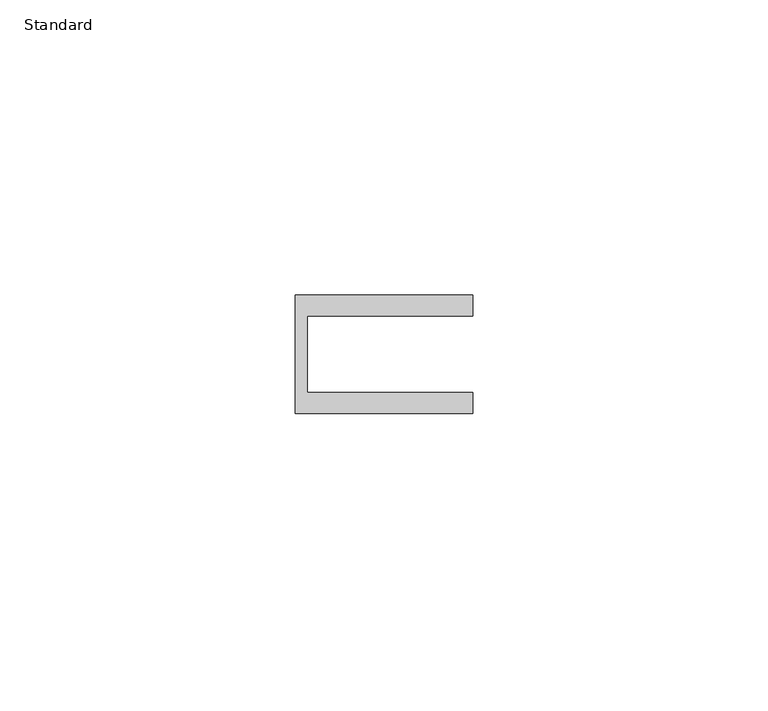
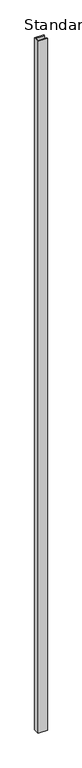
"""IFC4 building model written with IfcOpenShell, lengths in millimetres: furniture geometry, X_Partition-Channel-Duracube-End : Standard."""

from ifc_helpers import new_model, si_unit, origin, origin_with_axes, place, context, project, spatial, polyline, outline, extrude, source, transform, mapped, element, save


def standard_ce56a993(model_context):
    return source(origin(), model_context, "Body", "SweptSolid", [
        extrude(outline(polyline([(31.7003264, 0.0), (59.7003264, 0.0), (59.7003264, -3.5), (29.7003264, -3.5), (29.7003264, 16.5), (59.7003264, 16.5), (59.7003264, 13.0), (31.7003264, 13.0), (31.7003264, 0.0)])), origin_with_axes(), (0.0, 0.0, 1.0), 2400.0),
    ])


if __name__ == "__main__":
    model = new_model("IFC4")
    model_context = context("Model", 3, world=origin())
    ifc_project = project(units=[si_unit("LENGTHUNIT", "METRE", prefix="MILLI")], contexts=[model_context])
    site = spatial("IfcSite", under=ifc_project)
    building = spatial("IfcBuilding", under=site)
    placement = place(None, origin())
    standard_shape = standard_ce56a993(model_context)
    element("IfcFurniture", 1, ObjectType="X_Partition-Channel-Duracube-End : Standard", at=placement, inside=building, context=model_context, shape_type="MappedRepresentation", body=[
        mapped(standard_shape, transform((0.0, 0.0, 0.0), x_axis=(1.0, 0.0, 0.0), y_axis=(0.0, 1.0, 0.0), z_axis=(0.0, 0.0, 1.0))),
    ])
    save(model, "model.ifc")
